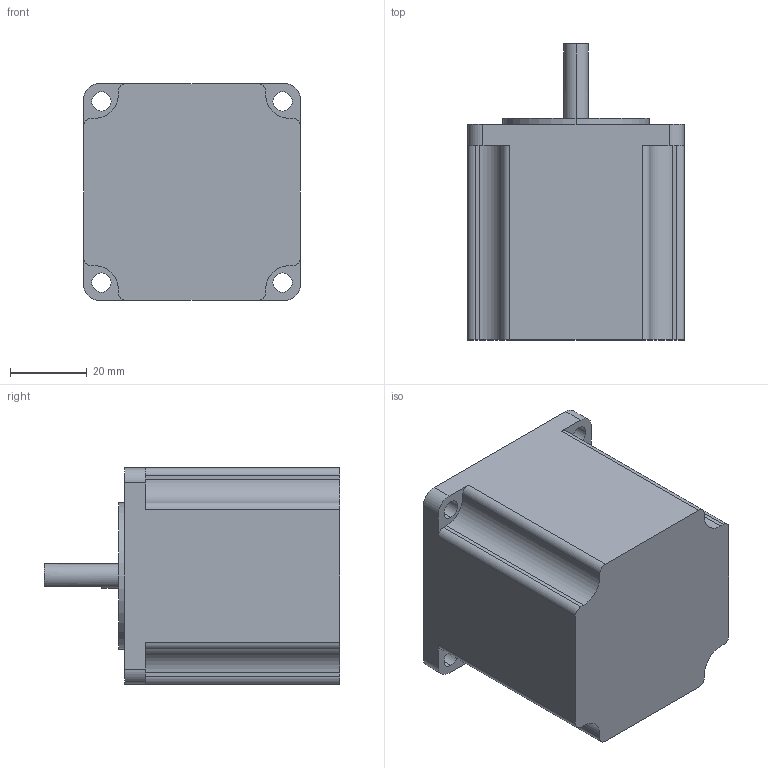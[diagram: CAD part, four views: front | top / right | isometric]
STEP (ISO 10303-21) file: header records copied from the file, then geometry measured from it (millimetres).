
FILE_DESCRIPTION (( 'STEP AP203' ), '1' );
FILE_NAME ('2S57Q-0956.STEP', '2015-05-05T03:49:00', ( 'IT毞諾' ), ( 'iTianKong.com' ), 'SwSTEP 2.0', 'SolidWorks 2008', '' );
FILE_SCHEMA (( 'CONFIG_CONTROL_DESIGN' ));
Length unit declared in the file: millimetre
Products named in the file (1): 2S57Q-0956
Bounding box: 56.4 x 77 x 56.4 mm (x, y, z)
Volume: 164896.6 mm3; surface area: 18827 mm2
Topology: 1 solids, 1 shells, 50 faces, 138 edges, 92 vertices
Faces by surface type: cylinder 28, plane 22
Entity records: 1713 total; most frequent: DIRECTION 298, CARTESIAN_POINT 281, ORIENTED_EDGE 276, EDGE_CURVE 138, AXIS2_PLACEMENT_3D 109, VERTEX_POINT 92, VECTOR 80, LINE 80
